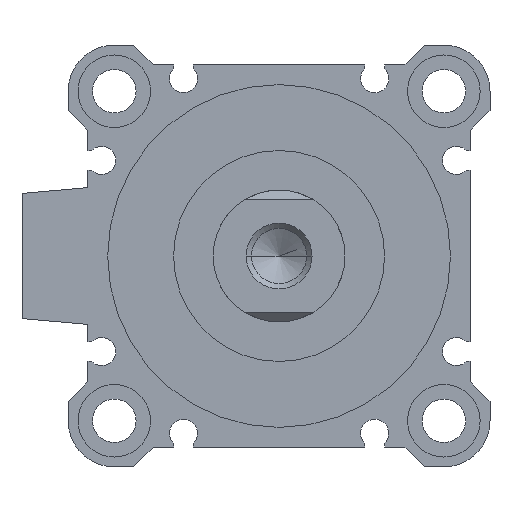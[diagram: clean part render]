
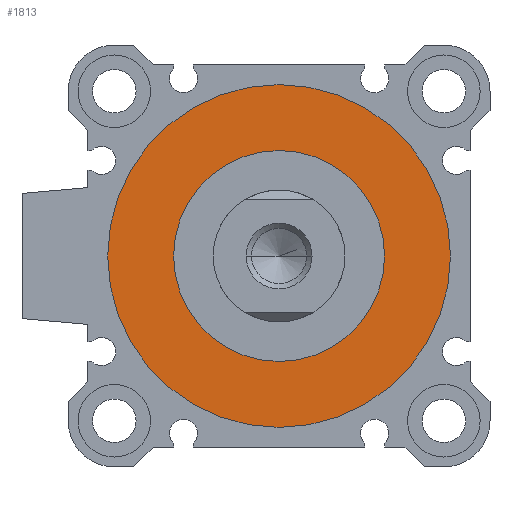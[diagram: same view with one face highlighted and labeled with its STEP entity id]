
A CAD part, left-side view. The second image highlights one B-rep face of the part: STEP entity #1813.
In plain terms, the highlighted planar face has unit normal (-1, 0, 0).
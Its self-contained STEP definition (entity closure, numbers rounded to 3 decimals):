
#99 = CARTESIAN_POINT ( 'NONE',  ( 3., 0., 16. ) ) ;
#103 = FACE_BOUND ( 'NONE', #1854, .T. ) ;
#130 = DIRECTION ( 'NONE',  ( 0., 1., 0. ) ) ;
#140 = DIRECTION ( 'NONE',  ( 1., 0., 0. ) ) ;
#219 = VERTEX_POINT ( 'NONE', #1388 ) ;
#279 = EDGE_CURVE ( 'NONE', #3798, #1424, #3842, .T. ) ;
#405 = CIRCLE ( 'NONE', #2108, 16. ) ;
#416 = DIRECTION ( 'NONE',  ( 0., 0., -1. ) ) ;
#542 = CARTESIAN_POINT ( 'NONE',  ( 3., 0., 0. ) ) ;
#604 = ORIENTED_EDGE ( 'NONE', *, *, #4186, .F. ) ;
#822 = AXIS2_PLACEMENT_3D ( 'NONE', #1162, #3074, #416 ) ;
#874 = DIRECTION ( 'NONE',  ( 1., 0., 0. ) ) ;
#982 = CARTESIAN_POINT ( 'NONE',  ( 3., 0., -16. ) ) ;
#1045 = AXIS2_PLACEMENT_3D ( 'NONE', #2786, #4007, #1997 ) ;
#1162 = CARTESIAN_POINT ( 'NONE',  ( 3., 0., 0. ) ) ;
#1388 = CARTESIAN_POINT ( 'NONE',  ( 3., 0., -26. ) ) ;
#1414 = CARTESIAN_POINT ( 'NONE',  ( 3., 0., 26. ) ) ;
#1424 = VERTEX_POINT ( 'NONE', #982 ) ;
#1632 = FACE_OUTER_BOUND ( 'NONE', #3309, .T. ) ;
#1662 = CARTESIAN_POINT ( 'NONE',  ( 3., 0., 0. ) ) ;
#1813 = ADVANCED_FACE ( 'NONE', ( #1632, #103 ), #4355, .F. ) ;
#1854 = EDGE_LOOP ( 'NONE', ( #2126, #4113 ) ) ;
#1997 = DIRECTION ( 'NONE',  ( 0., 0., -1. ) ) ;
#2108 = AXIS2_PLACEMENT_3D ( 'NONE', #1662, #140, #3147 ) ;
#2126 = ORIENTED_EDGE ( 'NONE', *, *, #279, .T. ) ;
#2394 = DIRECTION ( 'NONE',  ( 0., 0., -1. ) ) ;
#2420 = CARTESIAN_POINT ( 'NONE',  ( 3., 0., 0. ) ) ;
#2679 = AXIS2_PLACEMENT_3D ( 'NONE', #542, #874, #130 ) ;
#2786 = CARTESIAN_POINT ( 'NONE',  ( 3., 0., 0. ) ) ;
#2874 = EDGE_CURVE ( 'NONE', #1424, #3798, #405, .T. ) ;
#2971 = AXIS2_PLACEMENT_3D ( 'NONE', #2420, #3972, #2394 ) ;
#3074 = DIRECTION ( 'NONE',  ( 1., 0., 0. ) ) ;
#3147 = DIRECTION ( 'NONE',  ( 0., 0., -1. ) ) ;
#3309 = EDGE_LOOP ( 'NONE', ( #3823, #604 ) ) ;
#3422 = VERTEX_POINT ( 'NONE', #1414 ) ;
#3798 = VERTEX_POINT ( 'NONE', #99 ) ;
#3823 = ORIENTED_EDGE ( 'NONE', *, *, #4946, .F. ) ;
#3842 = CIRCLE ( 'NONE', #822, 16. ) ;
#3886 = CIRCLE ( 'NONE', #1045, 26. ) ;
#3972 = DIRECTION ( 'NONE',  ( 1., 0., 0. ) ) ;
#4007 = DIRECTION ( 'NONE',  ( 1., 0., 0. ) ) ;
#4113 = ORIENTED_EDGE ( 'NONE', *, *, #2874, .T. ) ;
#4186 = EDGE_CURVE ( 'NONE', #219, #3422, #3886, .T. ) ;
#4355 = PLANE ( 'NONE',  #2679 ) ;
#4673 = CIRCLE ( 'NONE', #2971, 26. ) ;
#4946 = EDGE_CURVE ( 'NONE', #3422, #219, #4673, .T. ) ;
